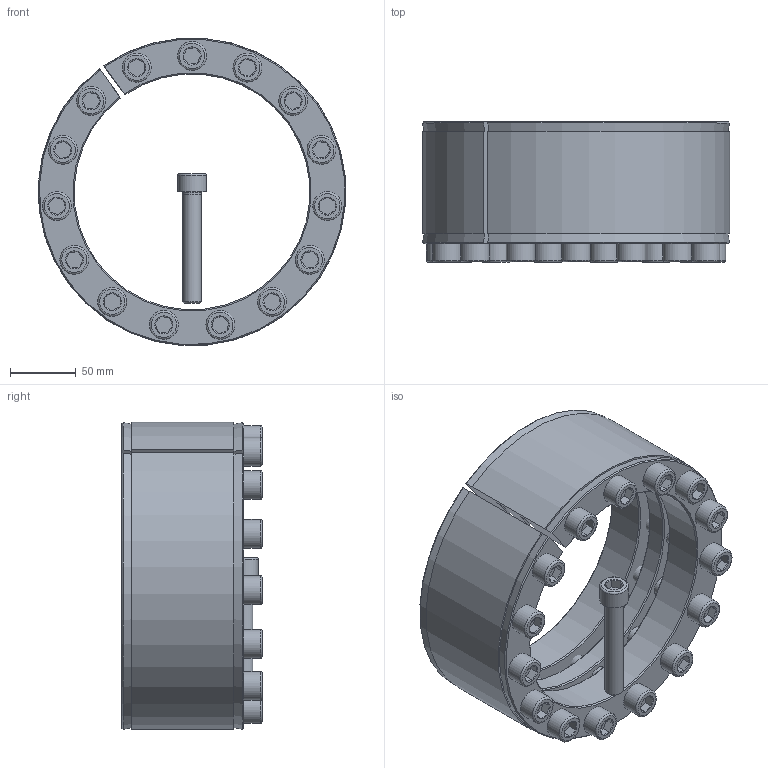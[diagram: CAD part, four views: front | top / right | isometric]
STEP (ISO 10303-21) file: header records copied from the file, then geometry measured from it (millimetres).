
FILE_DESCRIPTION( ( 'Unknown' ), '1' );
FILE_NAME( 'C:/Users/Frank/Eigene Daten/CAD/Solid Edge/KBK Karpstein/KBS Layout Baureihen/KBS 18/KBS - 180 x 235.stp', 'Unknown', ( 'Unknown' ), ( 'Unknown' ), 'XStep 1.0', 'Unknown', ' ' );
FILE_SCHEMA( ( 'automotive_design' ) );
Length unit declared in the file: millimetre
Products named in the file (3): Assem1; ISO EN DIN 4762 M14x85; KBS 18 - 180 x 235
Bounding box: 234.48 x 107 x 234.34 mm (x, y, z)
Volume: 2748720.9 mm3; surface area: 592090 mm2
Topology: 18 solids, 18 shells, 572 faces, 1282 edges, 750 vertices
Faces by surface type: plane 242, cylinder 162, cone 136, torus 32
Full cylindrical faces by diameter (mm): 11.835 x30, 12 x16, 14 x32, 15.5 x60, 22 x16
Entity records: 4390 total; most frequent: CARTESIAN_POINT 1126, DIRECTION 674, ORIENTED_EDGE 544, AXIS2_PLACEMENT_3D 319, EDGE_CURVE 272, EDGE_LOOP 227, VERTEX_POINT 191, CIRCLE 191
